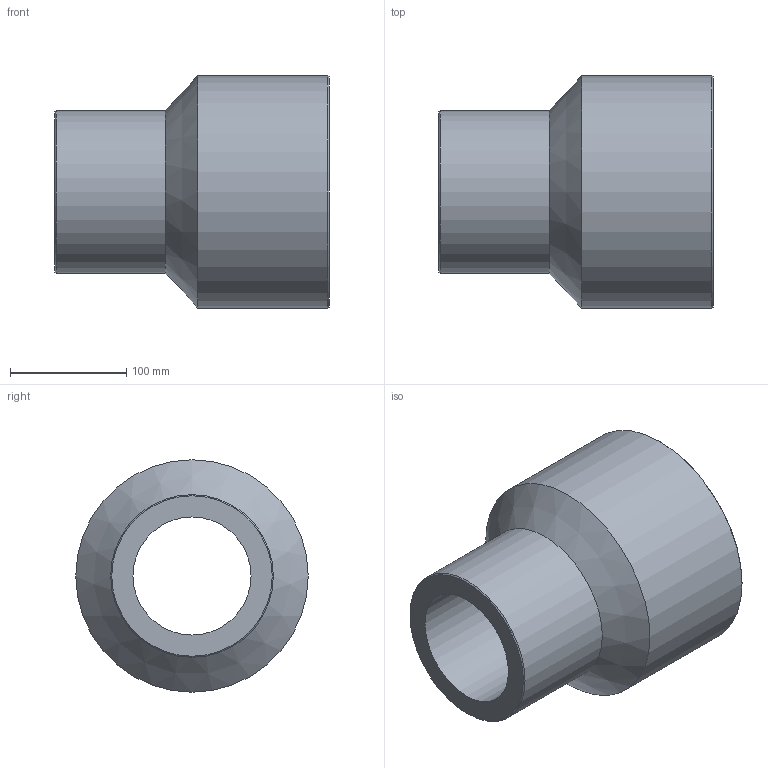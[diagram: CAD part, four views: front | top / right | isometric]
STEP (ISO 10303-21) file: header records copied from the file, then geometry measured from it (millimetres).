
FILE_DESCRIPTION(/* description */ ('Unknown'),/* implementation_level */ '2;1');
FILE_NAME(/* name */ 'RP200140H',/* time_stamp */ '2021-09-16T14:48:16+02:00',/* author */ ('Unknown'),/* organization */ ('Unknown'),/* preprocessor_version */ 'ST-DEVELOPER v16.7',/* originating_system */ 'Solid Edge',/* authorisation */ 'Unknown');
FILE_SCHEMA (('AUTOMOTIVE_DESIGN {1 0 10303 214 3 1 1}'));
Length unit declared in the file: millimetre
Products named in the file (1): RP200140H
Bounding box: 236 x 200 x 200 mm (x, y, z)
Volume: 2767811.9 mm3; surface area: 250178.3 mm2
Topology: 1 solids, 1 shells, 10 faces, 19 edges, 11 vertices
Faces by surface type: cylinder 4, cone 4, plane 2
Full cylindrical faces by diameter (mm): 101.6 x1, 140 x1, 145.2 x1, 200 x1
Entity records: 238 total; most frequent: DIRECTION 42, CARTESIAN_POINT 31, AXIS2_PLACEMENT_3D 21, ORIENTED_EDGE 20, EDGE_LOOP 20, FACE_BOUND 20, EDGE_CURVE 10, VERTEX_POINT 10
